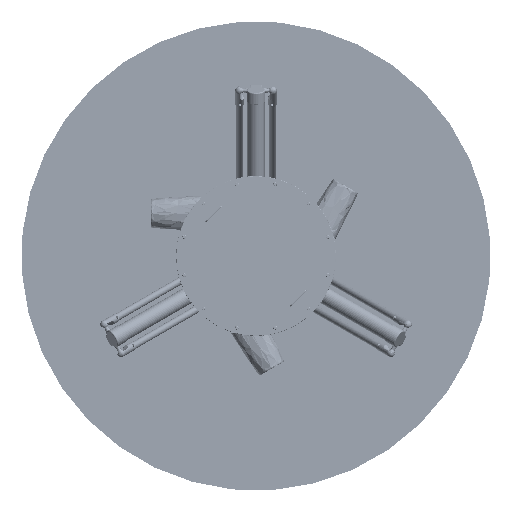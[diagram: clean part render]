
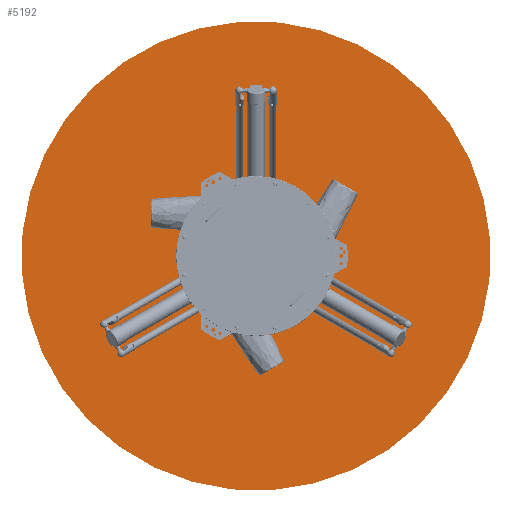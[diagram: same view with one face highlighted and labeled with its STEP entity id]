
A CAD part, front view. The second image highlights one B-rep face of the part: STEP entity #5192.
In plain terms, the highlighted planar face has unit normal (0, -1, 0) as drawn and (0, 1, 0) by its records, which use the part's own axes.
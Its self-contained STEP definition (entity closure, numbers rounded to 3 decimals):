
#2667 = PLANE ( 'NONE',  #209048 ) ;
#5107 = ORIENTED_EDGE ( 'NONE', *, *, #238422, .T. ) ;
#5192 = ADVANCED_FACE ( 'NONE', ( #155498 ), #2667, .F. ) ;
#23054 = DIRECTION ( 'NONE',  ( 0., 0., 1. ) ) ;
#32285 = DIRECTION ( 'NONE',  ( 0., 0., -1. ) ) ;
#58208 = EDGE_LOOP ( 'NONE', ( #302690, #5107 ) ) ;
#88940 = VERTEX_POINT ( 'NONE', #159510 ) ;
#98498 = CARTESIAN_POINT ( 'NONE',  ( 0., 637., 0. ) ) ;
#123493 = AXIS2_PLACEMENT_3D ( 'NONE', #376385, #199790, #23054 ) ;
#128150 = DIRECTION ( 'NONE',  ( 0., 0., 1. ) ) ;
#155498 = FACE_OUTER_BOUND ( 'NONE', #58208, .T. ) ;
#159510 = CARTESIAN_POINT ( 'NONE',  ( 0., 637., 1100. ) ) ;
#199790 = DIRECTION ( 'NONE',  ( 0., 1., 0. ) ) ;
#208994 = DIRECTION ( 'NONE',  ( 0., -1., 0. ) ) ;
#209048 = AXIS2_PLACEMENT_3D ( 'NONE', #326334, #208994, #32285 ) ;
#238422 = EDGE_CURVE ( 'NONE', #279260, #88940, #316677, .T. ) ;
#261075 = AXIS2_PLACEMENT_3D ( 'NONE', #98498, #304944, #128150 ) ;
#279260 = VERTEX_POINT ( 'NONE', #299718 ) ;
#283903 = EDGE_CURVE ( 'NONE', #88940, #279260, #337944, .T. ) ;
#299718 = CARTESIAN_POINT ( 'NONE',  ( 0., 637., -1100. ) ) ;
#302690 = ORIENTED_EDGE ( 'NONE', *, *, #283903, .T. ) ;
#304944 = DIRECTION ( 'NONE',  ( 0., 1., 0. ) ) ;
#316677 = CIRCLE ( 'NONE', #123493, 1100. ) ;
#326334 = CARTESIAN_POINT ( 'NONE',  ( 0., 637., 0. ) ) ;
#337944 = CIRCLE ( 'NONE', #261075, 1100. ) ;
#376385 = CARTESIAN_POINT ( 'NONE',  ( 0., 637., 0. ) ) ;
